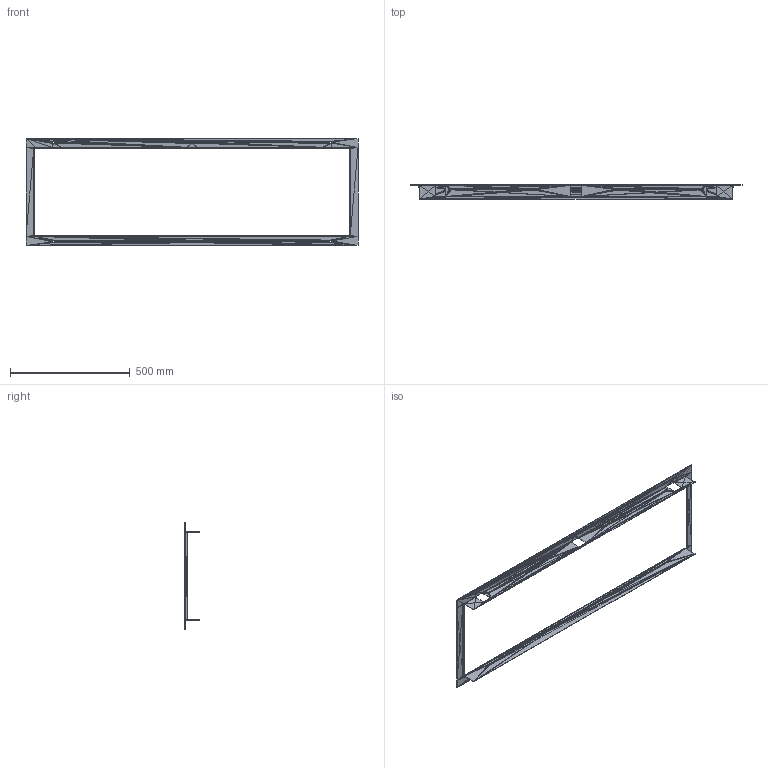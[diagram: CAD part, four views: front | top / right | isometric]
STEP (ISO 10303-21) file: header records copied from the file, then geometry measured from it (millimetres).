
FILE_DESCRIPTION((''),'2;1');
FILE_NAME('004321', '2025-07-23T08:38:46', (''), (''), 'ImageToStl.com STEP Converter','', '');
FILE_SCHEMA(('AUTOMOTIVE_DESIGN_CC2'));
Length unit declared in the file: metre
Products named in the file (1): product0
Bounding box: 1385 x 60 x 446 mm (x, y, z)
Surface area: 585866.2 mm2 (no closed solid volume)
Topology: 0 solids, 1244 shells, 1244 faces, 3732 edges, 592 vertices
Faces by surface type: plane 1244
Entity records: 28580 total; most frequent: DIRECTION 6222, ORIENTED_EDGE 3732, EDGE_CURVE 3732, LINE 3732, VECTOR 3732, AXIS2_PLACEMENT_3D 1245, FACE_SURFACE 1244, PLANE 1244
